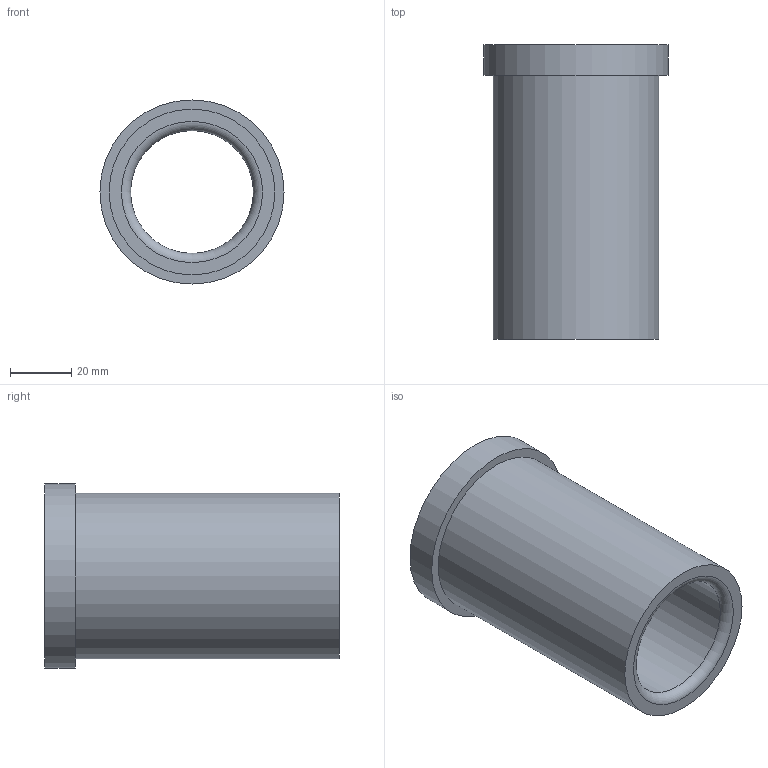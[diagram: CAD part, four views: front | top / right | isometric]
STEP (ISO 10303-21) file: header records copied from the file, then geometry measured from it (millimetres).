
FILE_DESCRIPTION(/* description */ ('STEP AP214'),/* implementation_level */ '2;1');
FILE_NAME(/* name */ '03_12_17953',/* time_stamp */ '2023-06-15T11:35:43+02:00',/* author */ ('License CC BY-ND 4.0'),/* organization */ ('CADENAS'),/* preprocessor_version */ 'ST-DEVELOPER v19.3',/* originating_system */ 'PARTsolutions',/* authorisation */ ' ');
FILE_SCHEMA (('AUTOMOTIVE_DESIGN {1 0 10303 214 3 1 1}'));
Length unit declared in the file: millimetre
Products named in the file (1): VA_Bushing_17953
Bounding box: 60 x 96 x 60 mm (x, y, z)
Volume: 103361.6 mm3; surface area: 31398 mm2
Topology: 1 solids, 1 shells, 10 faces, 16 edges, 10 vertices
Faces by surface type: cylinder 4, plane 4, torus 2
Full cylindrical faces by diameter (mm): 40 x1, 40.6 x1, 54 x1, 60 x1
Entity records: 302 total; most frequent: DIRECTION 42, CARTESIAN_POINT 31, AXIS2_PLACEMENT_3D 21, ORIENTED_EDGE 20, EDGE_LOOP 20, FACE_BOUND 20, EDGE_CURVE 10, VERTEX_POINT 10
